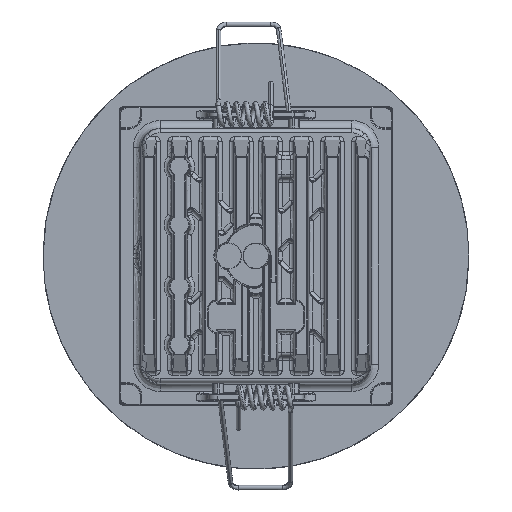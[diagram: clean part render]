
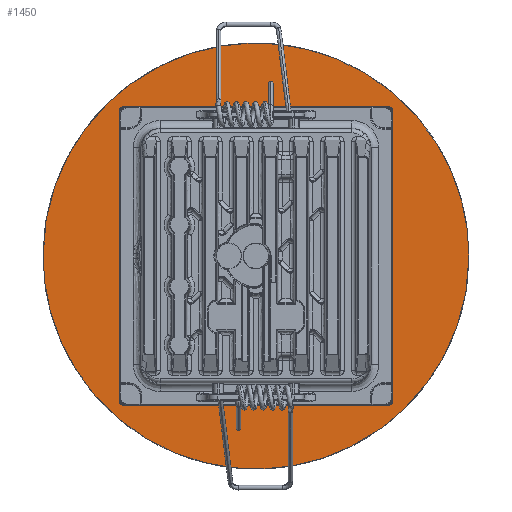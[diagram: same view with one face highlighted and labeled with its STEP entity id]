
A CAD part, top view. The second image highlights one B-rep face of the part: STEP entity #1450.
In plain terms, the highlighted planar face has unit normal (0, 0, 1).
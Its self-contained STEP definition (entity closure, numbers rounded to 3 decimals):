
#38=FACE_BOUND('',#4375,.T.);
#1450=ADVANCED_FACE('',(#2906,#38),#20823,.T.);
#2906=FACE_OUTER_BOUND('',#4374,.T.);
#4374=EDGE_LOOP('',(#10722,#10723));
#4375=EDGE_LOOP('',(#10724,#10725));
#10722=ORIENTED_EDGE('',*,*,#14127,.F.);
#10723=ORIENTED_EDGE('',*,*,#14126,.F.);
#10724=ORIENTED_EDGE('',*,*,#14131,.F.);
#10725=ORIENTED_EDGE('',*,*,#14132,.F.);
#14126=EDGE_CURVE('',#19287,#19288,#16110,.T.);
#14127=EDGE_CURVE('',#19288,#19287,#16111,.T.);
#14131=EDGE_CURVE('',#19290,#19289,#16114,.T.);
#14132=EDGE_CURVE('',#19289,#19290,#16115,.T.);
#16110=(
BOUNDED_CURVE()
B_SPLINE_CURVE(2,(#64717,#64718,#64719,#64720,#64721),.UNSPECIFIED.,.F.,
 .F.)
B_SPLINE_CURVE_WITH_KNOTS((3,2,3),(0.,86.394,172.788),
 .UNSPECIFIED.)
CURVE()
GEOMETRIC_REPRESENTATION_ITEM()
RATIONAL_B_SPLINE_CURVE((1.,0.707,1.,0.707,1.))
REPRESENTATION_ITEM('')
);
#16111=(
BOUNDED_CURVE()
B_SPLINE_CURVE(2,(#64722,#64723,#64724,#64725,#64726),.UNSPECIFIED.,.F.,
 .F.)
B_SPLINE_CURVE_WITH_KNOTS((3,2,3),(172.788,259.181,345.575),
 .UNSPECIFIED.)
CURVE()
GEOMETRIC_REPRESENTATION_ITEM()
RATIONAL_B_SPLINE_CURVE((1.,0.707,1.,0.707,1.))
REPRESENTATION_ITEM('')
);
#16114=(
BOUNDED_CURVE()
B_SPLINE_CURVE(2,(#64739,#64740,#64741,#64742,#64743),.UNSPECIFIED.,.F.,
 .F.)
B_SPLINE_CURVE_WITH_KNOTS((3,2,3),(-157.08,-117.81,-78.54),
 .UNSPECIFIED.)
CURVE()
GEOMETRIC_REPRESENTATION_ITEM()
RATIONAL_B_SPLINE_CURVE((1.,0.707,1.,0.707,1.))
REPRESENTATION_ITEM('')
);
#16115=(
BOUNDED_CURVE()
B_SPLINE_CURVE(2,(#64744,#64745,#64746,#64747,#64748),.UNSPECIFIED.,.F.,
 .F.)
B_SPLINE_CURVE_WITH_KNOTS((3,2,3),(-78.54,-39.27,
0.),.UNSPECIFIED.)
CURVE()
GEOMETRIC_REPRESENTATION_ITEM()
RATIONAL_B_SPLINE_CURVE((1.,0.707,1.,0.707,1.))
REPRESENTATION_ITEM('')
);
#19287=VERTEX_POINT('',#64701);
#19288=VERTEX_POINT('',#64702);
#19289=VERTEX_POINT('',#64703);
#19290=VERTEX_POINT('',#64704);
#20823=PLANE('',#21152);
#21152=AXIS2_PLACEMENT_3D('',#64667,#21397,$);
#21397=DIRECTION('',(0.,0.,1.));
#64667=CARTESIAN_POINT('',(-66.61,59.426,-27.621));
#64701=CARTESIAN_POINT('',(55.,-7.184,-27.621));
#64702=CARTESIAN_POINT('',(-55.,-7.184,-27.621));
#64703=CARTESIAN_POINT('',(-25.,-7.184,-27.621));
#64704=CARTESIAN_POINT('',(25.,-7.184,-27.621));
#64717=CARTESIAN_POINT('',(55.,-7.184,-27.621));
#64718=CARTESIAN_POINT('',(55.,-62.184,-27.621));
#64719=CARTESIAN_POINT('',(0.,-62.184,-27.621));
#64720=CARTESIAN_POINT('',(-55.,-62.184,-27.621));
#64721=CARTESIAN_POINT('',(-55.,-7.184,-27.621));
#64722=CARTESIAN_POINT('',(-55.,-7.184,-27.621));
#64723=CARTESIAN_POINT('',(-55.,47.816,-27.621));
#64724=CARTESIAN_POINT('',(0.,47.816,-27.621));
#64725=CARTESIAN_POINT('',(55.,47.816,-27.621));
#64726=CARTESIAN_POINT('',(55.,-7.184,-27.621));
#64739=CARTESIAN_POINT('',(25.,-7.184,-27.621));
#64740=CARTESIAN_POINT('',(25.,17.816,-27.621));
#64741=CARTESIAN_POINT('',(0.,17.816,-27.621));
#64742=CARTESIAN_POINT('',(-25.,17.816,-27.621));
#64743=CARTESIAN_POINT('',(-25.,-7.184,-27.621));
#64744=CARTESIAN_POINT('',(-25.,-7.184,-27.621));
#64745=CARTESIAN_POINT('',(-25.,-32.184,-27.621));
#64746=CARTESIAN_POINT('',(0.,-32.184,-27.621));
#64747=CARTESIAN_POINT('',(25.,-32.184,-27.621));
#64748=CARTESIAN_POINT('',(25.,-7.184,-27.621));
